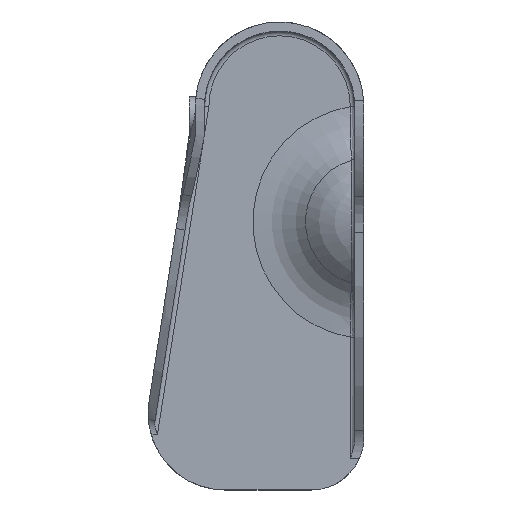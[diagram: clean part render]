
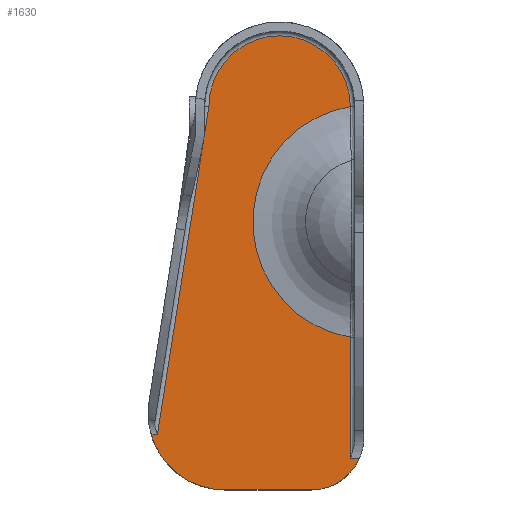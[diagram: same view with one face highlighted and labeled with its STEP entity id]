
A CAD part, top view. The second image highlights one B-rep face of the part: STEP entity #1630.
In plain terms, the highlighted planar face has unit normal (0, 0, 1).
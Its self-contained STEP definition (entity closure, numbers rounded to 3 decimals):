
#60=PLANE('',#1745);
#90=LINE('',#2295,#170);
#92=LINE('',#2395,#172);
#94=LINE('',#2398,#174);
#98=LINE('',#2421,#178);
#99=LINE('',#2424,#179);
#100=LINE('',#2428,#180);
#170=VECTOR('',#1889,10.);
#172=VECTOR('',#1907,10.);
#174=VECTOR('',#1911,10.);
#178=VECTOR('',#1933,10.);
#179=VECTOR('',#1936,10.);
#180=VECTOR('',#1939,10.);
#303=FACE_OUTER_BOUND('',#393,.T.);
#393=EDGE_LOOP('',(#1142,#1143,#1144,#1145,#1146,#1147,#1148,#1149,#1150,
#1151));
#604=CIRCLE('',#1724,23.5);
#620=CIRCLE('',#1746,38.852);
#621=CIRCLE('',#1747,25.5);
#622=CIRCLE('',#1748,17.5);
#664=VERTEX_POINT('',#2266);
#665=VERTEX_POINT('',#2267);
#669=VERTEX_POINT('',#2288);
#671=VERTEX_POINT('',#2322);
#676=VERTEX_POINT('',#2368);
#678=VERTEX_POINT('',#2382);
#689=VERTEX_POINT('',#2420);
#690=VERTEX_POINT('',#2423);
#691=VERTEX_POINT('',#2425);
#692=VERTEX_POINT('',#2427);
#842=EDGE_CURVE('',#664,#665,#604,.T.);
#848=EDGE_CURVE('',#669,#664,#90,.T.);
#861=EDGE_CURVE('',#676,#678,#92,.T.);
#863=EDGE_CURVE('',#665,#671,#94,.T.);
#874=EDGE_CURVE('',#678,#689,#98,.T.);
#875=EDGE_CURVE('',#671,#676,#620,.T.);
#876=EDGE_CURVE('',#690,#669,#99,.T.);
#877=EDGE_CURVE('',#690,#691,#621,.T.);
#878=EDGE_CURVE('',#691,#692,#100,.T.);
#879=EDGE_CURVE('',#692,#689,#622,.T.);
#1142=ORIENTED_EDGE('',*,*,#874,.F.);
#1143=ORIENTED_EDGE('',*,*,#861,.F.);
#1144=ORIENTED_EDGE('',*,*,#875,.F.);
#1145=ORIENTED_EDGE('',*,*,#863,.F.);
#1146=ORIENTED_EDGE('',*,*,#842,.F.);
#1147=ORIENTED_EDGE('',*,*,#848,.F.);
#1148=ORIENTED_EDGE('',*,*,#876,.F.);
#1149=ORIENTED_EDGE('',*,*,#877,.T.);
#1150=ORIENTED_EDGE('',*,*,#878,.T.);
#1151=ORIENTED_EDGE('',*,*,#879,.T.);
#1630=ADVANCED_FACE('',(#303),#60,.T.);
#1724=AXIS2_PLACEMENT_3D('',#2268,#1880,#1881);
#1745=AXIS2_PLACEMENT_3D('',#2419,#1931,#1932);
#1746=AXIS2_PLACEMENT_3D('',#2422,#1934,#1935);
#1747=AXIS2_PLACEMENT_3D('',#2426,#1937,#1938);
#1748=AXIS2_PLACEMENT_3D('',#2429,#1940,#1941);
#1880=DIRECTION('center_axis',(0.,0.,-1.));
#1881=DIRECTION('ref_axis',(-0.004,1.,0.));
#1889=DIRECTION('',(0.155,0.988,0.));
#1907=DIRECTION('',(0.,-1.,0.));
#1911=DIRECTION('',(0.,-1.,0.));
#1931=DIRECTION('center_axis',(0.,0.,1.));
#1932=DIRECTION('ref_axis',(1.,0.,0.));
#1933=DIRECTION('',(1.,0.,0.));
#1934=DIRECTION('center_axis',(0.,0.,1.));
#1935=DIRECTION('ref_axis',(-1.,0.,0.));
#1936=DIRECTION('',(0.988,-0.155,0.));
#1937=DIRECTION('center_axis',(0.,0.,1.));
#1938=DIRECTION('ref_axis',(1.,0.,0.));
#1939=DIRECTION('',(1.,0.,0.));
#1940=DIRECTION('center_axis',(0.,0.,1.));
#1941=DIRECTION('ref_axis',(1.,0.,0.));
#2266=CARTESIAN_POINT('',(-23.5,-0.115,3.));
#2267=CARTESIAN_POINT('',(23.5,0.,3.));
#2268=CARTESIAN_POINT('Origin',(0.,0.,3.));
#2288=CARTESIAN_POINT('',(-40.601,-109.048,3.));
#2295=CARTESIAN_POINT('',(-35.232,-74.853,3.));
#2322=CARTESIAN_POINT('',(23.5,-0.005,3.));
#2368=CARTESIAN_POINT('',(23.5,-76.633,3.));
#2382=CARTESIAN_POINT('',(23.5,-116.9,3.));
#2395=CARTESIAN_POINT('',(23.5,-25.6,3.));
#2398=CARTESIAN_POINT('',(23.5,-25.6,3.));
#2419=CARTESIAN_POINT('Origin',(-7.842,-51.2,3.));
#2420=CARTESIAN_POINT('',(26.539,-116.9,3.));
#2421=CARTESIAN_POINT('',(8.579,-116.9,3.));
#2422=CARTESIAN_POINT('Origin',(29.945,-38.319,3.));
#2423=CARTESIAN_POINT('',(-42.759,-108.709,3.));
#2424=CARTESIAN_POINT('',(-31.13,-110.535,3.));
#2425=CARTESIAN_POINT('',(-18.185,-127.4,3.));
#2426=CARTESIAN_POINT('Origin',(-18.185,-101.9,3.));
#2427=CARTESIAN_POINT('',(10.5,-127.4,3.));
#2428=CARTESIAN_POINT('',(-18.603,-127.4,3.));
#2429=CARTESIAN_POINT('Origin',(10.5,-109.9,3.));
